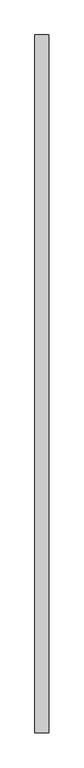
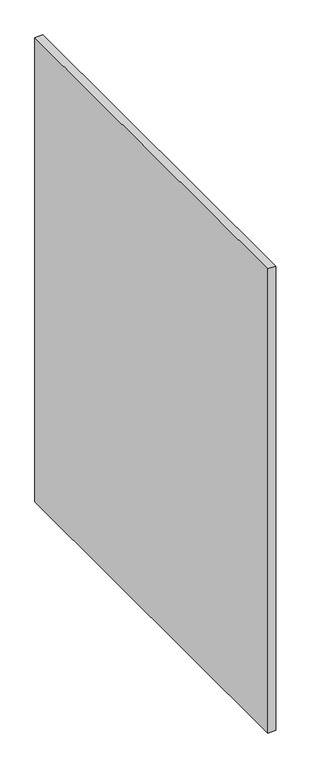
"""IFC4 building model written with IfcOpenShell, lengths in millimetres: furniture geometry, Divisoria_Lateral Fechada : Divisoria_Lateral Fechada_130x180."""

from ifc_helpers import new_model, si_unit, frame, origin, place, context, project, spatial, polyline, outline, extrude, source, transform, mapped, element, save


def furniture_45878de2(model_context):
    return source(origin(), model_context, "Body", "SweptSolid", [
        extrude(outline(polyline([(59.7003264, -50.0), (29.7003264, -50.0), (29.7003264, 1470.072222), (59.7003264, 1470.072222), (59.7003264, -50.0)])), frame((0.0, 0.0, 50.0), z_axis=(0.0, 0.0, 1.0), x_axis=(1.0, 0.0, 0.0)), (0.0, 0.0, 1.0), 1850.0),
    ])


if __name__ == "__main__":
    model = new_model("IFC4")
    model_context = context("Model", 3, world=origin())
    ifc_project = project(units=[si_unit("LENGTHUNIT", "METRE", prefix="MILLI")], contexts=[model_context])
    site = spatial("IfcSite", under=ifc_project)
    building = spatial("IfcBuilding", under=site)
    placement = place(None, origin())
    furniture_shape = furniture_45878de2(model_context)
    element("IfcFurniture", 1, ObjectType="Divisoria_Lateral Fechada : Divisoria_Lateral Fechada_130x180", at=placement, inside=building, context=model_context, shape_type="MappedRepresentation", body=[
        mapped(furniture_shape, transform((0.0, 0.0, 0.0), x_axis=(1.0, 0.0, 0.0), y_axis=(0.0, 1.0, 0.0), z_axis=(0.0, 0.0, 1.0))),
    ])
    save(model, "model.ifc")
